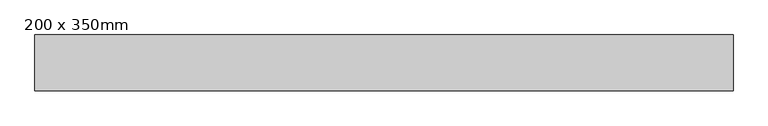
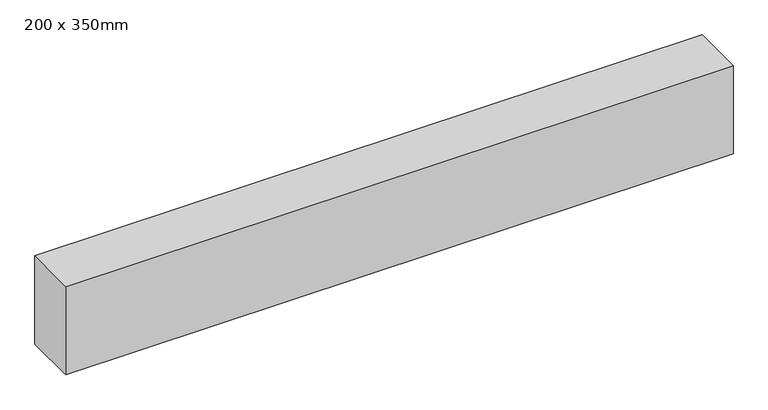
"""IFC4 building model written with IfcOpenShell, lengths in millimetres: beam geometry, 混凝土 - 矩形梁 : 200 x 350mm."""

from ifc_helpers import new_model, si_unit, frame, origin, place, context, project, spatial, polyline, outline, extrude, source, transform, mapped, element, save


def beam_200_x_350mm_bc6e23a3(model_context):
    return source(origin(), model_context, "Body", "SweptSolid", [
        extrude(outline(polyline([(1250.0, 100.0), (1250.0, -100.0), (-1250.0, -100.0), (-1250.0, 100.0), (1250.0, 100.0)])), frame((0.0, 0.0, -175.0), z_axis=(0.0, 0.0, 1.0), x_axis=(1.0, 0.0, 0.0)), (0.0, 0.0, 1.0), 350.0),
    ])


if __name__ == "__main__":
    model = new_model("IFC4")
    model_context = context("Model", 3, world=origin())
    ifc_project = project(units=[si_unit("LENGTHUNIT", "METRE", prefix="MILLI")], contexts=[model_context])
    site = spatial("IfcSite", under=ifc_project)
    building = spatial("IfcBuilding", under=site)
    placement = place(None, origin())
    beam_200_x_350mm_shape = beam_200_x_350mm_bc6e23a3(model_context)
    element("IfcBeam", 1, ObjectType="混凝土 - 矩形梁 : 200 x 350mm", at=placement, inside=building, context=model_context, shape_type="MappedRepresentation", body=[
        mapped(beam_200_x_350mm_shape, transform((0.0, 0.0, 0.0), x_axis=(1.0, 0.0, 0.0), y_axis=(0.0, 1.0, 0.0), z_axis=(0.0, 0.0, 1.0))),
    ])
    save(model, "model.ifc")
